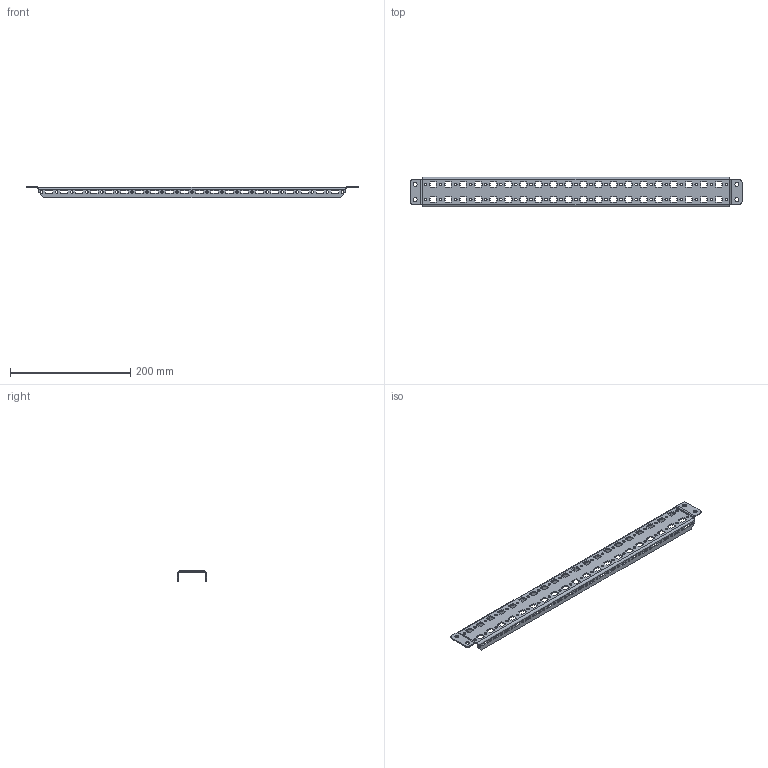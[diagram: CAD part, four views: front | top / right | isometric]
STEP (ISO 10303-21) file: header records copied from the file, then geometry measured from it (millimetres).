
FILE_DESCRIPTION (( 'STEP AP203' ), '1' );
FILE_NAME ('MRD 60.06 Ðåéêà ìîíòàæíàÿ âåðòèêàëüíàÿ.STEP', '2025-05-15T12:23:38', ( '' ), ( '' ), 'SwSTEP 2.0', 'SolidWorks 2019', '' );
FILE_SCHEMA (( 'CONFIG_CONTROL_DESIGN' ));
Length unit declared in the file: millimetre
Products named in the file (1): MRD 60.06 Ðåéêà ìîíòàæíàÿ âåðòèêàëüíàÿ
Bounding box: 552 x 49 x 19.03 mm (x, y, z)
Volume: 66650.6 mm3; surface area: 77708.9 mm2
Topology: 1 solids, 1 shells, 886 faces, 2604 edges, 1720 vertices
Faces by surface type: plane 686, cylinder 200
Entity records: 29913 total; most frequent: CARTESIAN_POINT 5211, ORIENTED_EDGE 5208, DIRECTION 4778, EDGE_CURVE 2604, VECTOR 2204, LINE 2204, VERTEX_POINT 1720, AXIS2_PLACEMENT_3D 1287
